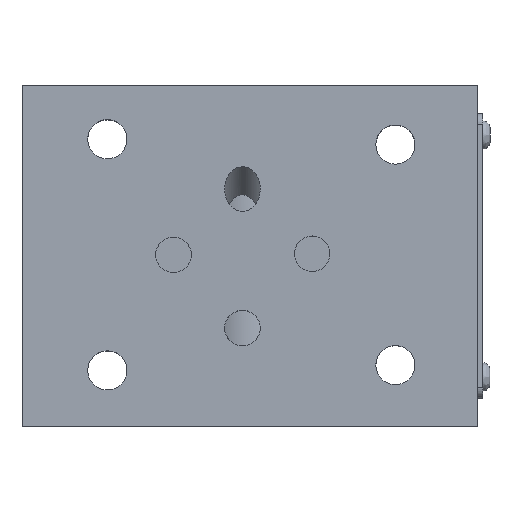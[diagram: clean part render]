
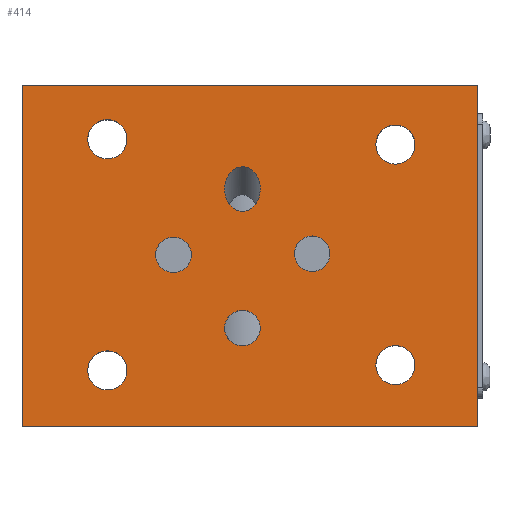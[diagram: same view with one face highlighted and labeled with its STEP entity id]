
A CAD part, top view. The second image highlights one B-rep face of the part: STEP entity #414.
In plain terms, the highlighted planar face has unit normal (0, 0, 1).
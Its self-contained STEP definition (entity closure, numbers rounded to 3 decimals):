
#23=ELLIPSE('',#1817,3.13,2.5);
#414=ADVANCED_FACE('',(#597,#598,#599,#600,#601,#602,#603,#604,#605),#481,
 .T.);
#481=PLANE('',#1819);
#597=FACE_BOUND('',#756,.T.);
#598=FACE_BOUND('',#757,.T.);
#599=FACE_BOUND('',#758,.T.);
#600=FACE_BOUND('',#759,.T.);
#601=FACE_BOUND('',#760,.T.);
#602=FACE_BOUND('',#761,.T.);
#603=FACE_BOUND('',#762,.T.);
#604=FACE_BOUND('',#763,.T.);
#605=FACE_BOUND('',#764,.T.);
#756=EDGE_LOOP('',(#1145));
#757=EDGE_LOOP('',(#1146));
#758=EDGE_LOOP('',(#1147));
#759=EDGE_LOOP('',(#1148));
#760=EDGE_LOOP('',(#1149,#1150,#1151,#1152));
#761=EDGE_LOOP('',(#1153));
#762=EDGE_LOOP('',(#1154));
#763=EDGE_LOOP('',(#1155));
#764=EDGE_LOOP('',(#1156));
#861=CIRCLE('',#1784,2.5);
#863=CIRCLE('',#1787,2.5);
#870=CIRCLE('',#1798,2.75);
#872=CIRCLE('',#1801,2.75);
#874=CIRCLE('',#1804,2.75);
#878=CIRCLE('',#1810,2.75);
#883=CIRCLE('',#1818,2.5);
#1145=ORIENTED_EDGE('',*,*,#1540,.F.);
#1146=ORIENTED_EDGE('',*,*,#1502,.F.);
#1147=ORIENTED_EDGE('',*,*,#1504,.F.);
#1148=ORIENTED_EDGE('',*,*,#1541,.F.);
#1149=ORIENTED_EDGE('',*,*,#1518,.F.);
#1150=ORIENTED_EDGE('',*,*,#1532,.F.);
#1151=ORIENTED_EDGE('',*,*,#1506,.F.);
#1152=ORIENTED_EDGE('',*,*,#1522,.F.);
#1153=ORIENTED_EDGE('',*,*,#1529,.F.);
#1154=ORIENTED_EDGE('',*,*,#1527,.F.);
#1155=ORIENTED_EDGE('',*,*,#1525,.F.);
#1156=ORIENTED_EDGE('',*,*,#1535,.F.);
#1337=VERTEX_POINT('',#3918);
#1339=VERTEX_POINT('',#3923);
#1341=VERTEX_POINT('',#3928);
#1342=VERTEX_POINT('',#3929);
#1353=VERTEX_POINT('',#3965);
#1354=VERTEX_POINT('',#3966);
#1358=VERTEX_POINT('',#3979);
#1360=VERTEX_POINT('',#3984);
#1362=VERTEX_POINT('',#3989);
#1366=VERTEX_POINT('',#4001);
#1371=VERTEX_POINT('',#4013);
#1372=VERTEX_POINT('',#4015);
#1502=EDGE_CURVE('',#1337,#1337,#861,.T.);
#1504=EDGE_CURVE('',#1339,#1339,#863,.T.);
#1506=EDGE_CURVE('',#1341,#1342,#1615,.T.);
#1518=EDGE_CURVE('',#1353,#1354,#1619,.T.);
#1522=EDGE_CURVE('',#1354,#1341,#1623,.T.);
#1525=EDGE_CURVE('',#1358,#1358,#870,.T.);
#1527=EDGE_CURVE('',#1360,#1360,#872,.T.);
#1529=EDGE_CURVE('',#1362,#1362,#874,.T.);
#1532=EDGE_CURVE('',#1342,#1353,#1625,.T.);
#1535=EDGE_CURVE('',#1366,#1366,#878,.T.);
#1540=EDGE_CURVE('',#1371,#1371,#23,.T.);
#1541=EDGE_CURVE('',#1372,#1372,#883,.T.);
#1615=LINE('',#3927,#1665);
#1619=LINE('',#3964,#1669);
#1623=LINE('',#3973,#1673);
#1625=LINE('',#3995,#1675);
#1665=VECTOR('',#2120,1.);
#1669=VECTOR('',#2134,1.);
#1673=VECTOR('',#2140,1.);
#1675=VECTOR('',#2166,1.);
#1784=AXIS2_PLACEMENT_3D('',#3917,#2108,#2109);
#1787=AXIS2_PLACEMENT_3D('',#3922,#2114,#2115);
#1798=AXIS2_PLACEMENT_3D('',#3978,#2146,#2147);
#1801=AXIS2_PLACEMENT_3D('',#3983,#2152,#2153);
#1804=AXIS2_PLACEMENT_3D('',#3988,#2158,#2159);
#1810=AXIS2_PLACEMENT_3D('',#4000,#2172,#2173);
#1817=AXIS2_PLACEMENT_3D('',#4012,#2186,#2187);
#1818=AXIS2_PLACEMENT_3D('',#4014,#2188,#2189);
#1819=AXIS2_PLACEMENT_3D('',#4016,#2190,#2191);
#2108=DIRECTION('',(0.,0.,1.));
#2109=DIRECTION('',(1.,0.,0.));
#2114=DIRECTION('',(0.,0.,1.));
#2115=DIRECTION('',(1.,0.,0.));
#2120=DIRECTION('',(1.,0.,0.));
#2134=DIRECTION('',(-1.,0.,0.));
#2140=DIRECTION('',(0.,1.,0.));
#2146=DIRECTION('',(0.,0.,1.));
#2147=DIRECTION('',(1.,0.,0.));
#2152=DIRECTION('',(0.,0.,1.));
#2153=DIRECTION('',(1.,0.,0.));
#2158=DIRECTION('',(0.,0.,1.));
#2159=DIRECTION('',(1.,0.,0.));
#2166=DIRECTION('',(0.,-1.,0.));
#2172=DIRECTION('',(0.,0.,1.));
#2173=DIRECTION('',(1.,0.,0.));
#2186=DIRECTION('',(0.,0.,1.));
#2187=DIRECTION('',(0.,-1.,0.));
#2188=DIRECTION('',(0.,0.,1.));
#2189=DIRECTION('',(1.,0.,0.));
#2190=DIRECTION('',(0.,0.,1.));
#2191=DIRECTION('',(-1.,0.,0.));
#3917=CARTESIAN_POINT('',(55.787,124.578,0.));
#3918=CARTESIAN_POINT('',(58.287,124.578,0.));
#3922=CARTESIAN_POINT('',(36.287,124.428,0.));
#3923=CARTESIAN_POINT('',(38.787,124.428,0.));
#3927=CARTESIAN_POINT('',(14.987,148.278,0.));
#3928=CARTESIAN_POINT('',(14.987,148.278,0.));
#3929=CARTESIAN_POINT('',(78.987,148.278,0.));
#3964=CARTESIAN_POINT('',(78.987,100.278,0.));
#3965=CARTESIAN_POINT('',(78.987,100.278,0.));
#3966=CARTESIAN_POINT('',(14.987,100.278,0.));
#3973=CARTESIAN_POINT('',(14.987,100.278,0.));
#3978=CARTESIAN_POINT('',(26.987,140.678,0.));
#3979=CARTESIAN_POINT('',(29.737,140.678,0.));
#3983=CARTESIAN_POINT('',(67.487,108.928,0.));
#3984=CARTESIAN_POINT('',(70.237,108.928,0.));
#3988=CARTESIAN_POINT('',(67.487,139.928,0.));
#3989=CARTESIAN_POINT('',(70.237,139.928,0.));
#3995=CARTESIAN_POINT('',(78.987,148.278,0.));
#4000=CARTESIAN_POINT('',(26.987,108.178,0.));
#4001=CARTESIAN_POINT('',(29.737,108.178,0.));
#4012=CARTESIAN_POINT('',(45.987,133.678,0.));
#4013=CARTESIAN_POINT('',(45.987,130.548,0.));
#4014=CARTESIAN_POINT('',(45.987,114.128,0.));
#4015=CARTESIAN_POINT('',(48.487,114.128,0.));
#4016=CARTESIAN_POINT('',(67.487,139.928,0.));
